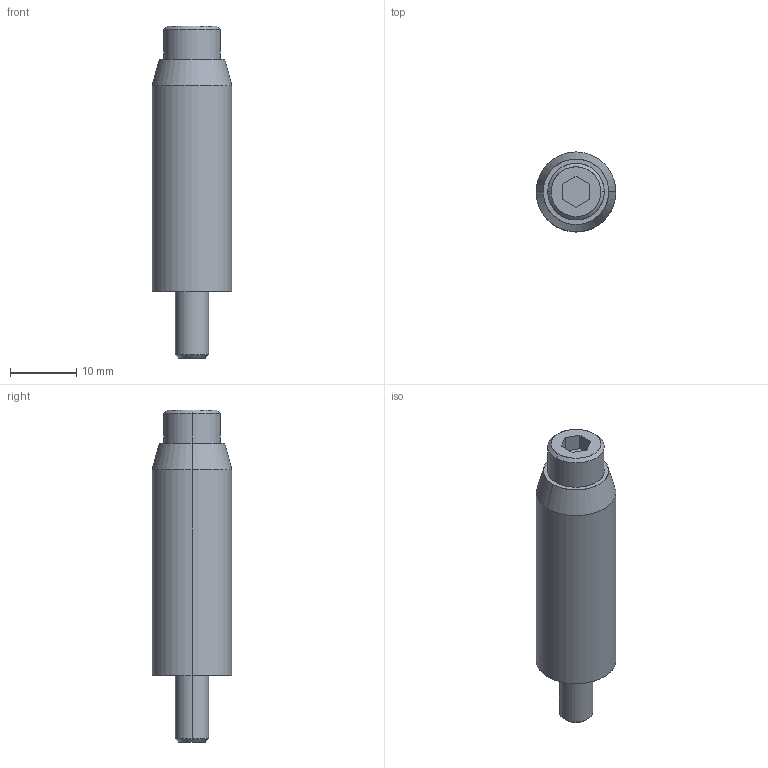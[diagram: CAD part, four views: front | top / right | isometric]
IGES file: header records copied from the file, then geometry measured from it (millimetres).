
Global section: file name: E:\UnigraphicsGraphicData\MISUMI_PRESS-PARTS\IGES\3d_sgc12-40_00795_r00.igs; native system: NX V5.0; preprocessor: UGS NX IGES V5.0; author: MISUMI; date: 20110105.162537; units: millimetre
Bounding box: 12 x 12 x 50 mm (x, y, z)
Surface area: 2476.6 mm2 (no closed solid volume)
Topology: 0 solids, 0 shells, 27 faces, 180 edges, 180 vertices
Faces by surface type: bspline 27
